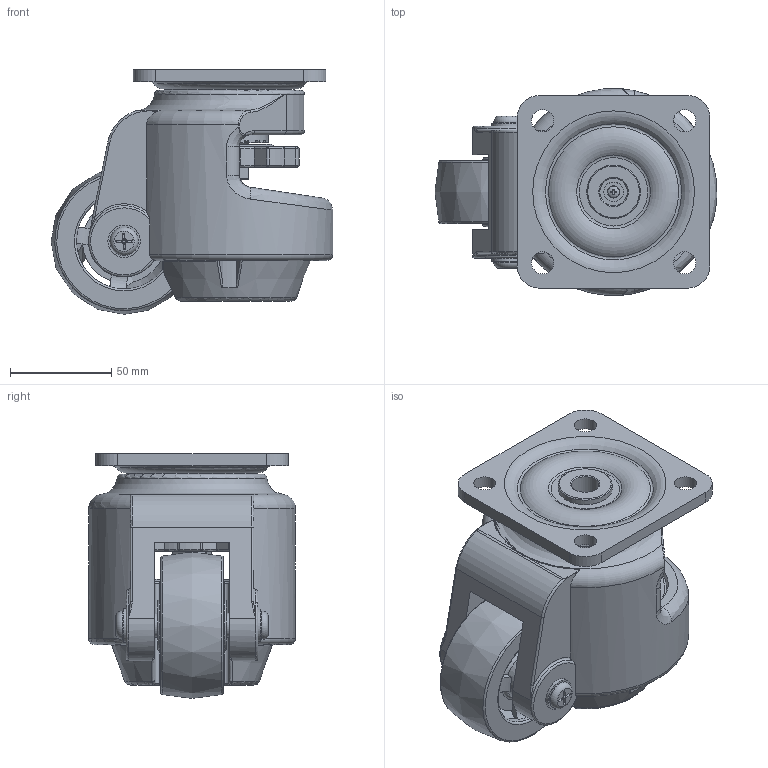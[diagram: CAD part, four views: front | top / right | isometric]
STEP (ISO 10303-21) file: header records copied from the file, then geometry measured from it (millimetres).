
FILE_DESCRIPTION((''),'2;1');
FILE_NAME('E:\UPS\Accessories\wheels\AC-1000F\AC-1000F.stp','2012-07-10T12:02:50',('h029'),(''),'Autodesk Inventor 11','Autodesk Inventor 11','');
FILE_SCHEMA(('AUTOMOTIVE_DESIGN { 1 0 10303 214 1 1 1 1 }'));
Length unit declared in the file: millimetre
Products named in the file (4): AC-1000F; AC-1000F_1; AC-1000F_2; AC-1000F_3
Assembly tree (3 placements, depth 2):
  AC-1000F
    AC-1000F_1
    AC-1000F_2
    AC-1000F_3
Bounding box: 138.96 x 102 x 120.6 mm (x, y, z)
Volume: 654161.1 mm3; surface area: 147044.7 mm2
Topology: 5 solids, 43 shells, 797 faces, 2036 edges, 1198 vertices
Faces by surface type: plane 280, cylinder 227, bspline 105, sphere 97, torus 73, cone 15
Full cylindrical faces by diameter (mm): 2.75 x1, 3 x2, 6.647 x1, 8 x1, 9 x1, 9.7 x2, 11 x4, 12 x2, 12.2 x1, 13 x2, 13.5 x1, 14 x2, 16 x1, 16.5 x1, 20 x2, 21 x1, 25 x3, 26.5 x1, 30 x1, 38 x1, 40 x1, 40.14 x1, 41.34 x1, 41.5 x1, 47 x2
Entity records: 30876 total; most frequent: CARTESIAN_POINT 12636, DIRECTION 3940, ORIENTED_EDGE 3704, EDGE_CURVE 1852, AXIS2_PLACEMENT_3D 1610, VERTEX_POINT 1133, EDGE_LOOP 926, CIRCLE 894
